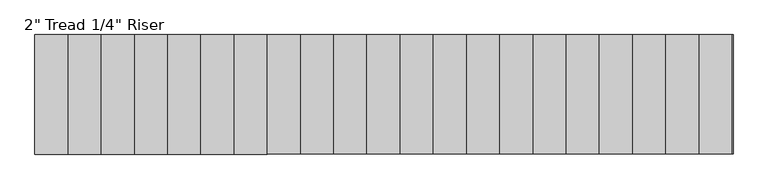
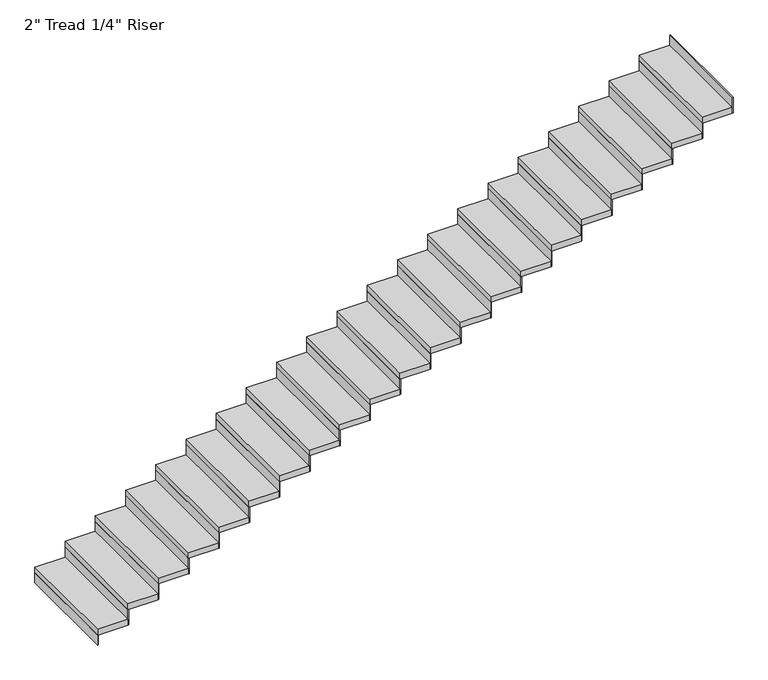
"""IFC4 building model written with IfcOpenShell, lengths in millimetres: stair flight geometry."""

from ifc_helpers import new_model, si_unit, frame, origin, origin_with_axes, place, context, project, spatial, polyline, outline, extrude, source, transform, mapped, element, save


def stair_flight_00fe024d(model_context):
    return source(origin(), model_context, "Body", "SweptSolid", [
        extrude(outline(polyline([(60758.6286682, 14907.564969), (60752.2786682, 14907.564969), (60752.2786682, 15821.964969), (60758.6286682, 15821.964969), (60758.6286682, 14907.564969)])), origin_with_axes(), (0.0, 0.0, 1.0), 87.7454545),
        extrude(outline(polyline([(61006.2786682, 15821.964969), (61006.2786682, 14907.564969), (60752.2786682, 14907.564969), (60752.2786682, 15821.964969), (61006.2786682, 15821.964969)])), frame((0.0, 0.0, 87.7454545), z_axis=(0.0, 0.0, 1.0), x_axis=(1.0, 0.0, 0.0)), (0.0, 0.0, 1.0), 50.8),
        extrude(outline(polyline([(61012.6286682, 14907.564969), (61006.2786682, 14907.564969), (61006.2786682, 15821.964969), (61012.6286682, 15821.964969), (61012.6286682, 14907.564969)])), frame((0.0, 0.0, 87.7454545), z_axis=(0.0, 0.0, 1.0), x_axis=(1.0, 0.0, 0.0)), (0.0, 0.0, 1.0), 138.5454545),
        extrude(outline(polyline([(61260.2786682, 15821.964969), (61260.2786682, 14907.564969), (61006.2786682, 14907.564969), (61006.2786682, 15821.964969), (61260.2786682, 15821.964969)])), frame((0.0, 0.0, 226.2909091), z_axis=(0.0, 0.0, 1.0), x_axis=(1.0, 0.0, 0.0)), (0.0, 0.0, 1.0), 50.8),
        extrude(outline(polyline([(61266.6286682, 14907.564969), (61260.2786682, 14907.564969), (61260.2786682, 15821.964969), (61266.6286682, 15821.964969), (61266.6286682, 14907.564969)])), frame((0.0, 0.0, 226.2909091), z_axis=(0.0, 0.0, 1.0), x_axis=(1.0, 0.0, 0.0)), (0.0, 0.0, 1.0), 138.5454545),
        extrude(outline(polyline([(61514.2786682, 15821.964969), (61514.2786682, 14907.564969), (61260.2786682, 14907.564969), (61260.2786682, 15821.964969), (61514.2786682, 15821.964969)])), frame((0.0, 0.0, 364.8363636), z_axis=(0.0, 0.0, 1.0), x_axis=(1.0, 0.0, 0.0)), (0.0, 0.0, 1.0), 50.8),
        extrude(outline(polyline([(61520.6286682, 14907.564969), (61514.2786682, 14907.564969), (61514.2786682, 15821.964969), (61520.6286682, 15821.964969), (61520.6286682, 14907.564969)])), frame((0.0, 0.0, 364.8363636), z_axis=(0.0, 0.0, 1.0), x_axis=(1.0, 0.0, 0.0)), (0.0, 0.0, 1.0), 138.5454545),
        extrude(outline(polyline([(61768.2786682, 15821.964969), (61768.2786682, 14907.564969), (61514.2786682, 14907.564969), (61514.2786682, 15821.964969), (61768.2786682, 15821.964969)])), frame((0.0, 0.0, 503.3818182), z_axis=(0.0, 0.0, 1.0), x_axis=(1.0, 0.0, 0.0)), (0.0, 0.0, 1.0), 50.8),
        extrude(outline(polyline([(61774.6286682, 14907.564969), (61768.2786682, 14907.564969), (61768.2786682, 15821.964969), (61774.6286682, 15821.964969), (61774.6286682, 14907.564969)])), frame((0.0, 0.0, 503.3818182), z_axis=(0.0, 0.0, 1.0), x_axis=(1.0, 0.0, 0.0)), (0.0, 0.0, 1.0), 138.5454545),
        extrude(outline(polyline([(62022.2786682, 15821.964969), (62022.2786682, 14907.564969), (61768.2786682, 14907.564969), (61768.2786682, 15821.964969), (62022.2786682, 15821.964969)])), frame((0.0, 0.0, 641.9272727), z_axis=(0.0, 0.0, 1.0), x_axis=(1.0, 0.0, 0.0)), (0.0, 0.0, 1.0), 50.8),
        extrude(outline(polyline([(62028.6286682, 14907.564969), (62022.2786682, 14907.564969), (62022.2786682, 15821.964969), (62028.6286682, 15821.964969), (62028.6286682, 14907.564969)])), frame((0.0, 0.0, 641.9272727), z_axis=(0.0, 0.0, 1.0), x_axis=(1.0, 0.0, 0.0)), (0.0, 0.0, 1.0), 138.5454545),
        extrude(outline(polyline([(62276.2786682, 15821.964969), (62276.2786682, 14907.564969), (62022.2786682, 14907.564969), (62022.2786682, 15821.964969), (62276.2786682, 15821.964969)])), frame((0.0, 0.0, 780.4727273), z_axis=(0.0, 0.0, 1.0), x_axis=(1.0, 0.0, 0.0)), (0.0, 0.0, 1.0), 50.8),
        extrude(outline(polyline([(62282.6286682, 14907.564969), (62276.2786682, 14907.564969), (62276.2786682, 15821.964969), (62282.6286682, 15821.964969), (62282.6286682, 14907.564969)])), frame((0.0, 0.0, 780.4727273), z_axis=(0.0, 0.0, 1.0), x_axis=(1.0, 0.0, 0.0)), (0.0, 0.0, 1.0), 138.5454545),
        extrude(outline(polyline([(62530.2786682, 15821.964969), (62530.2786682, 14907.564969), (62276.2786682, 14907.564969), (62276.2786682, 15821.964969), (62530.2786682, 15821.964969)])), frame((0.0, 0.0, 919.0181818), z_axis=(0.0, 0.0, 1.0), x_axis=(1.0, 0.0, 0.0)), (0.0, 0.0, 1.0), 50.8),
        extrude(outline(polyline([(62536.6286682, 14907.564969), (62530.2786682, 14907.564969), (62530.2786682, 15821.964969), (62536.6286682, 15821.964969), (62536.6286682, 14907.564969)])), frame((0.0, 0.0, 919.0181818), z_axis=(0.0, 0.0, 1.0), x_axis=(1.0, 0.0, 0.0)), (0.0, 0.0, 1.0), 138.5454545),
        extrude(outline(polyline([(62784.2786682, 15821.964969), (62784.2786682, 14907.564969), (62530.2786682, 14907.564969), (62530.2786682, 15821.964969), (62784.2786682, 15821.964969)])), frame((0.0, 0.0, 1057.5636364), z_axis=(0.0, 0.0, 1.0), x_axis=(1.0, 0.0, 0.0)), (0.0, 0.0, 1.0), 50.8),
        extrude(outline(polyline([(62790.6286682, 14907.564969), (62784.2786682, 14907.564969), (62784.2786682, 15821.964969), (62790.6286682, 15821.964969), (62790.6286682, 14907.564969)])), frame((0.0, 0.0, 1057.5636364), z_axis=(0.0, 0.0, 1.0), x_axis=(1.0, 0.0, 0.0)), (0.0, 0.0, 1.0), 138.5454545),
        extrude(outline(polyline([(63038.2786682, 15821.964969), (63038.2786682, 14907.564969), (62784.2786682, 14907.564969), (62784.2786682, 15821.964969), (63038.2786682, 15821.964969)])), frame((0.0, 0.0, 1196.1090909), z_axis=(0.0, 0.0, 1.0), x_axis=(1.0, 0.0, 0.0)), (0.0, 0.0, 1.0), 50.8),
        extrude(outline(polyline([(63044.6286682, 14907.564969), (63038.2786682, 14907.564969), (63038.2786682, 15821.964969), (63044.6286682, 15821.964969), (63044.6286682, 14907.564969)])), frame((0.0, 0.0, 1196.1090909), z_axis=(0.0, 0.0, 1.0), x_axis=(1.0, 0.0, 0.0)), (0.0, 0.0, 1.0), 138.5454545),
        extrude(outline(polyline([(63292.2786682, 15821.964969), (63292.2786682, 14907.564969), (63038.2786682, 14907.564969), (63038.2786682, 15821.964969), (63292.2786682, 15821.964969)])), frame((0.0, 0.0, 1334.6545455), z_axis=(0.0, 0.0, 1.0), x_axis=(1.0, 0.0, 0.0)), (0.0, 0.0, 1.0), 50.8),
        extrude(outline(polyline([(63298.6286682, 14907.564969), (63292.2786682, 14907.564969), (63292.2786682, 15821.964969), (63298.6286682, 15821.964969), (63298.6286682, 14907.564969)])), frame((0.0, 0.0, 1334.6545455), z_axis=(0.0, 0.0, 1.0), x_axis=(1.0, 0.0, 0.0)), (0.0, 0.0, 1.0), 138.5454545),
        extrude(outline(polyline([(63546.2786682, 15821.964969), (63546.2786682, 14907.564969), (63292.2786682, 14907.564969), (63292.2786682, 15821.964969), (63546.2786682, 15821.964969)])), frame((0.0, 0.0, 1473.2), z_axis=(0.0, 0.0, 1.0), x_axis=(1.0, 0.0, 0.0)), (0.0, 0.0, 1.0), 50.8),
        extrude(outline(polyline([(63552.6286682, 14907.564969), (63546.2786682, 14907.564969), (63546.2786682, 15821.964969), (63552.6286682, 15821.964969), (63552.6286682, 14907.564969)])), frame((0.0, 0.0, 1473.2), z_axis=(0.0, 0.0, 1.0), x_axis=(1.0, 0.0, 0.0)), (0.0, 0.0, 1.0), 138.5454545),
        extrude(outline(polyline([(63800.2786682, 15821.964969), (63800.2786682, 14907.564969), (63546.2786682, 14907.564969), (63546.2786682, 15821.964969), (63800.2786682, 15821.964969)])), frame((0.0, 0.0, 1611.7454545), z_axis=(0.0, 0.0, 1.0), x_axis=(1.0, 0.0, 0.0)), (0.0, 0.0, 1.0), 50.8),
        extrude(outline(polyline([(63806.6286682, 14907.564969), (63800.2786682, 14907.564969), (63800.2786682, 15821.964969), (63806.6286682, 15821.964969), (63806.6286682, 14907.564969)])), frame((0.0, 0.0, 1611.7454545), z_axis=(0.0, 0.0, 1.0), x_axis=(1.0, 0.0, 0.0)), (0.0, 0.0, 1.0), 138.5454545),
        extrude(outline(polyline([(64054.2786682, 15821.964969), (64054.2786682, 14907.564969), (63800.2786682, 14907.564969), (63800.2786682, 15821.964969), (64054.2786682, 15821.964969)])), frame((0.0, 0.0, 1750.2909091), z_axis=(0.0, 0.0, 1.0), x_axis=(1.0, 0.0, 0.0)), (0.0, 0.0, 1.0), 50.8),
        extrude(outline(polyline([(64060.6286682, 14907.564969), (64054.2786682, 14907.564969), (64054.2786682, 15821.964969), (64060.6286682, 15821.964969), (64060.6286682, 14907.564969)])), frame((0.0, 0.0, 1750.2909091), z_axis=(0.0, 0.0, 1.0), x_axis=(1.0, 0.0, 0.0)), (0.0, 0.0, 1.0), 138.5454545),
        extrude(outline(polyline([(64308.2786682, 15821.964969), (64308.2786682, 14907.564969), (64054.2786682, 14907.564969), (64054.2786682, 15821.964969), (64308.2786682, 15821.964969)])), frame((0.0, 0.0, 1888.8363636), z_axis=(0.0, 0.0, 1.0), x_axis=(1.0, 0.0, 0.0)), (0.0, 0.0, 1.0), 50.8),
        extrude(outline(polyline([(64314.6286682, 14907.564969), (64308.2786682, 14907.564969), (64308.2786682, 15821.964969), (64314.6286682, 15821.964969), (64314.6286682, 14907.564969)])), frame((0.0, 0.0, 1888.8363636), z_axis=(0.0, 0.0, 1.0), x_axis=(1.0, 0.0, 0.0)), (0.0, 0.0, 1.0), 138.5454545),
        extrude(outline(polyline([(64562.2786682, 15821.964969), (64562.2786682, 14907.564969), (64308.2786682, 14907.564969), (64308.2786682, 15821.964969), (64562.2786682, 15821.964969)])), frame((0.0, 0.0, 2027.3818182), z_axis=(0.0, 0.0, 1.0), x_axis=(1.0, 0.0, 0.0)), (0.0, 0.0, 1.0), 50.8),
        extrude(outline(polyline([(64568.6286682, 14907.564969), (64562.2786682, 14907.564969), (64562.2786682, 15821.964969), (64568.6286682, 15821.964969), (64568.6286682, 14907.564969)])), frame((0.0, 0.0, 2027.3818182), z_axis=(0.0, 0.0, 1.0), x_axis=(1.0, 0.0, 0.0)), (0.0, 0.0, 1.0), 138.5454545),
        extrude(outline(polyline([(64816.2786682, 15821.964969), (64816.2786682, 14907.564969), (64562.2786682, 14907.564969), (64562.2786682, 15821.964969), (64816.2786682, 15821.964969)])), frame((0.0, 0.0, 2165.9272727), z_axis=(0.0, 0.0, 1.0), x_axis=(1.0, 0.0, 0.0)), (0.0, 0.0, 1.0), 50.8),
        extrude(outline(polyline([(64822.6286682, 14907.564969), (64816.2786682, 14907.564969), (64816.2786682, 15821.964969), (64822.6286682, 15821.964969), (64822.6286682, 14907.564969)])), frame((0.0, 0.0, 2165.9272727), z_axis=(0.0, 0.0, 1.0), x_axis=(1.0, 0.0, 0.0)), (0.0, 0.0, 1.0), 138.5454545),
        extrude(outline(polyline([(65070.2786682, 15821.964969), (65070.2786682, 14907.564969), (64816.2786682, 14907.564969), (64816.2786682, 15821.964969), (65070.2786682, 15821.964969)])), frame((0.0, 0.0, 2304.4727273), z_axis=(0.0, 0.0, 1.0), x_axis=(1.0, 0.0, 0.0)), (0.0, 0.0, 1.0), 50.8),
        extrude(outline(polyline([(65076.6286682, 14907.564969), (65070.2786682, 14907.564969), (65070.2786682, 15821.964969), (65076.6286682, 15821.964969), (65076.6286682, 14907.564969)])), frame((0.0, 0.0, 2304.4727273), z_axis=(0.0, 0.0, 1.0), x_axis=(1.0, 0.0, 0.0)), (0.0, 0.0, 1.0), 138.5454545),
        extrude(outline(polyline([(65324.2786682, 15821.964969), (65324.2786682, 14907.564969), (65070.2786682, 14907.564969), (65070.2786682, 15821.964969), (65324.2786682, 15821.964969)])), frame((0.0, 0.0, 2443.0181818), z_axis=(0.0, 0.0, 1.0), x_axis=(1.0, 0.0, 0.0)), (0.0, 0.0, 1.0), 50.8),
        extrude(outline(polyline([(65330.6286682, 14907.564969), (65324.2786682, 14907.564969), (65324.2786682, 15821.964969), (65330.6286682, 15821.964969), (65330.6286682, 14907.564969)])), frame((0.0, 0.0, 2443.0181818), z_axis=(0.0, 0.0, 1.0), x_axis=(1.0, 0.0, 0.0)), (0.0, 0.0, 1.0), 138.5454545),
        extrude(outline(polyline([(65578.2786682, 15821.964969), (65578.2786682, 14907.564969), (65324.2786682, 14907.564969), (65324.2786682, 15821.964969), (65578.2786682, 15821.964969)])), frame((0.0, 0.0, 2581.5636364), z_axis=(0.0, 0.0, 1.0), x_axis=(1.0, 0.0, 0.0)), (0.0, 0.0, 1.0), 50.8),
        extrude(outline(polyline([(65584.6286682, 14907.564969), (65578.2786682, 14907.564969), (65578.2786682, 15821.964969), (65584.6286682, 15821.964969), (65584.6286682, 14907.564969)])), frame((0.0, 0.0, 2581.5636364), z_axis=(0.0, 0.0, 1.0), x_axis=(1.0, 0.0, 0.0)), (0.0, 0.0, 1.0), 138.5454545),
        extrude(outline(polyline([(65832.2786682, 15821.964969), (65832.2786682, 14907.564969), (65578.2786682, 14907.564969), (65578.2786682, 15821.964969), (65832.2786682, 15821.964969)])), frame((0.0, 0.0, 2720.1090909), z_axis=(0.0, 0.0, 1.0), x_axis=(1.0, 0.0, 0.0)), (0.0, 0.0, 1.0), 50.8),
        extrude(outline(polyline([(65838.6286682, 14907.564969), (65832.2786682, 14907.564969), (65832.2786682, 15821.964969), (65838.6286682, 15821.964969), (65838.6286682, 14907.564969)])), frame((0.0, 0.0, 2720.1090909), z_axis=(0.0, 0.0, 1.0), x_axis=(1.0, 0.0, 0.0)), (0.0, 0.0, 1.0), 138.5454545),
        extrude(outline(polyline([(66092.6286682, 14907.564969), (66086.2786682, 14907.564969), (66086.2786682, 15821.964969), (66092.6286682, 15821.964969), (66092.6286682, 14907.564969)])), frame((0.0, 0.0, 2858.6545455), z_axis=(0.0, 0.0, 1.0), x_axis=(1.0, 0.0, 0.0)), (0.0, 0.0, 1.0), 138.5454545),
        extrude(outline(polyline([(66086.2786682, 15821.964969), (66086.2786682, 14907.564969), (65832.2786682, 14907.564969), (65832.2786682, 15821.964969), (66086.2786682, 15821.964969)])), frame((0.0, 0.0, 2858.6545455), z_axis=(0.0, 0.0, 1.0), x_axis=(1.0, 0.0, 0.0)), (0.0, 0.0, 1.0), 50.8),
    ])


if __name__ == "__main__":
    model = new_model("IFC4")
    model_context = context("Model", 3, world=origin())
    ifc_project = project(units=[si_unit("LENGTHUNIT", "METRE", prefix="MILLI")], contexts=[model_context])
    site = spatial("IfcSite", under=ifc_project)
    building = spatial("IfcBuilding", under=site)
    placement = place(None, origin())
    stair_flight_shape = stair_flight_00fe024d(model_context)
    element("IfcStairFlight", 1, ObjectType="2\" Tread 1/4\" Riser", at=placement, inside=building, context=model_context, shape_type="MappedRepresentation", body=[
        mapped(stair_flight_shape, transform((0.0, 0.0, 0.0), x_axis=(1.0, 0.0, 0.0), y_axis=(0.0, 1.0, 0.0), z_axis=(0.0, 0.0, 1.0))),
    ])
    save(model, "model.ifc")
